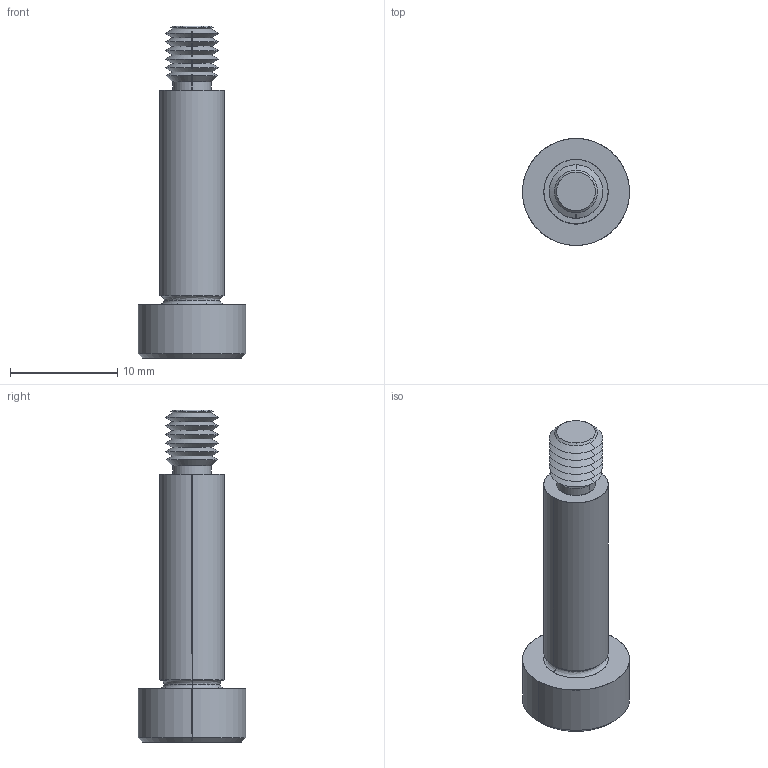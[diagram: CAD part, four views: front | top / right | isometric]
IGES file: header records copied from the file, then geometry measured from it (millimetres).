
Start section: SolidWorks IGES file using analytic representation for surfaces
Global section: file name: C:\Users\IanO\Documents\Temp Folder\GENERAL\SCREW REVISION\P0130_v2\P0130.T5_v2_20220106_IGES\P0130.060-020-T5.igs; native system: SolidWorks 2019; preprocessor: SolidWorks 2019; author: IanO; date: 220106.222437; units: millimetre
Bounding box: 10 x 10 x 31 mm (x, y, z)
Surface area: 864.6 mm2 (no closed solid volume)
Topology: 0 solids, 0 shells, 64 faces, 504 edges, 502 vertices
Faces by surface type: revolution 44, bspline 20
